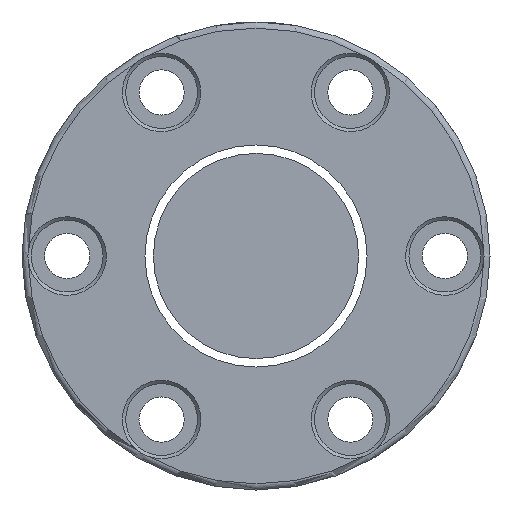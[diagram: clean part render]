
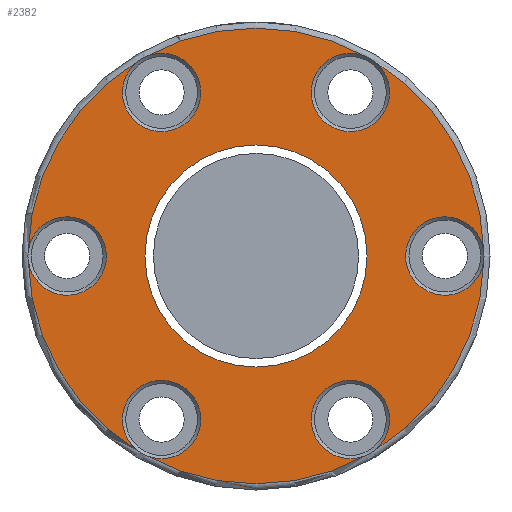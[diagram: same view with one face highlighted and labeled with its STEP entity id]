
A CAD part, left-side view. The second image highlights one B-rep face of the part: STEP entity #2382.
In plain terms, the highlighted planar face has unit normal (-1, 0, 0).
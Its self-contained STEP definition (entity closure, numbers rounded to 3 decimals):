
#1 = EDGE_CURVE ( 'NONE', #1185, #9, #2150, .T. ) ;
#9 = VERTEX_POINT ( 'NONE', #1130 ) ;
#10 = DIRECTION ( 'NONE',  ( 0., -1., 0. ) ) ;
#35 = CARTESIAN_POINT ( 'NONE',  ( -88., -23., 39.837 ) ) ;
#223 = ORIENTED_EDGE ( 'NONE', *, *, #1255, .T. ) ;
#258 = ORIENTED_EDGE ( 'NONE', *, *, #2152, .T. ) ;
#292 = CARTESIAN_POINT ( 'NONE',  ( -88., -28.673, 47.519 ) ) ;
#293 = AXIS2_PLACEMENT_3D ( 'NONE', #1666, #2627, #2371 ) ;
#429 = EDGE_CURVE ( 'NONE', #1891, #3024, #1756, .T. ) ;
#433 = DIRECTION ( 'NONE',  ( -1., 0., 0. ) ) ;
#445 = DIRECTION ( 'NONE',  ( 1., 0., 0. ) ) ;
#473 = EDGE_CURVE ( 'NONE', #9, #957, #840, .T. ) ;
#489 = DIRECTION ( 'NONE',  ( -1., 0., 0. ) ) ;
#497 = CARTESIAN_POINT ( 'NONE',  ( -88., -26.816, 48.591 ) ) ;
#507 = ORIENTED_EDGE ( 'NONE', *, *, #1486, .T. ) ;
#522 = DIRECTION ( 'NONE',  ( -1., 0., 0. ) ) ;
#621 = FACE_OUTER_BOUND ( 'NONE', #1237, .T. ) ;
#623 = ORIENTED_EDGE ( 'NONE', *, *, #899, .T. ) ;
#657 = VERTEX_POINT ( 'NONE', #292 ) ;
#675 = ORIENTED_EDGE ( 'NONE', *, *, #2864, .T. ) ;
#683 = ORIENTED_EDGE ( 'NONE', *, *, #1, .T. ) ;
#688 = AXIS2_PLACEMENT_3D ( 'NONE', #2312, #862, #3010 ) ;
#690 = CARTESIAN_POINT ( 'NONE',  ( -88., -26.816, -48.591 ) ) ;
#692 = AXIS2_PLACEMENT_3D ( 'NONE', #1726, #2701, #2240 ) ;
#716 = DIRECTION ( 'NONE',  ( 0., -1., 0. ) ) ;
#822 = CIRCLE ( 'NONE', #2481, 55.5 ) ;
#824 = ORIENTED_EDGE ( 'NONE', *, *, #473, .T. ) ;
#840 = CIRCLE ( 'NONE', #2049, 9.55 ) ;
#849 = AXIS2_PLACEMENT_3D ( 'NONE', #2739, #3071, #2565 ) ;
#859 = EDGE_CURVE ( 'NONE', #2335, #2050, #2755, .T. ) ;
#862 = DIRECTION ( 'NONE',  ( -1., 0., 0. ) ) ;
#899 = EDGE_CURVE ( 'NONE', #2262, #2065, #2206, .T. ) ;
#907 = CARTESIAN_POINT ( 'NONE',  ( -88., -55.49, -1.072 ) ) ;
#929 = CARTESIAN_POINT ( 'NONE',  ( -88., 23., -39.837 ) ) ;
#941 = DIRECTION ( 'NONE',  ( 0., -1., 0. ) ) ;
#948 = CIRCLE ( 'NONE', #2713, 9.55 ) ;
#957 = VERTEX_POINT ( 'NONE', #1694 ) ;
#971 = DIRECTION ( 'NONE',  ( 1., 0., 0. ) ) ;
#1002 = AXIS2_PLACEMENT_3D ( 'NONE', #2652, #489, #2397 ) ;
#1045 = CARTESIAN_POINT ( 'NONE',  ( -88., 28.673, -47.519 ) ) ;
#1052 = CIRCLE ( 'NONE', #2803, 55.5 ) ;
#1087 = EDGE_LOOP ( 'NONE', ( #223 ) ) ;
#1098 = DIRECTION ( 'NONE',  ( -1., 0., 0. ) ) ;
#1130 = CARTESIAN_POINT ( 'NONE',  ( -88., 26.816, 48.591 ) ) ;
#1162 = ORIENTED_EDGE ( 'NONE', *, *, #1696, .T. ) ;
#1185 = VERTEX_POINT ( 'NONE', #497 ) ;
#1232 = EDGE_CURVE ( 'NONE', #657, #1185, #948, .T. ) ;
#1237 = EDGE_LOOP ( 'NONE', ( #2126, #1285, #2589, #683, #824, #675, #623, #2563, #258, #2119, #507, #1162 ) ) ;
#1254 = AXIS2_PLACEMENT_3D ( 'NONE', #3100, #1657, #10 ) ;
#1255 = EDGE_CURVE ( 'NONE', #2006, #2006, #2405, .T. ) ;
#1285 = ORIENTED_EDGE ( 'NONE', *, *, #2109, .T. ) ;
#1294 = CARTESIAN_POINT ( 'NONE',  ( -88., 0., 0. ) ) ;
#1371 = AXIS2_PLACEMENT_3D ( 'NONE', #929, #2866, #2394 ) ;
#1453 = CIRCLE ( 'NONE', #692, 9.55 ) ;
#1486 = EDGE_CURVE ( 'NONE', #2050, #2245, #1453, .T. ) ;
#1517 = CIRCLE ( 'NONE', #849, 55.5 ) ;
#1532 = DIRECTION ( 'NONE',  ( 0., -1., 0. ) ) ;
#1559 = CARTESIAN_POINT ( 'NONE',  ( -88., 26.816, -48.591 ) ) ;
#1561 = AXIS2_PLACEMENT_3D ( 'NONE', #1811, #1098, #1587 ) ;
#1587 = DIRECTION ( 'NONE',  ( 0., -1., 0. ) ) ;
#1654 = DIRECTION ( 'NONE',  ( 0., -1., 0. ) ) ;
#1657 = DIRECTION ( 'NONE',  ( 1., 0., 0. ) ) ;
#1666 = CARTESIAN_POINT ( 'NONE',  ( -88., 0., 0. ) ) ;
#1694 = CARTESIAN_POINT ( 'NONE',  ( -88., 28.673, 47.519 ) ) ;
#1696 = EDGE_CURVE ( 'NONE', #2245, #1891, #1052, .T. ) ;
#1726 = CARTESIAN_POINT ( 'NONE',  ( -88., -23., -39.837 ) ) ;
#1756 = CIRCLE ( 'NONE', #2298, 9.55 ) ;
#1775 = VERTEX_POINT ( 'NONE', #1045 ) ;
#1811 = CARTESIAN_POINT ( 'NONE',  ( -88., 57., 0. ) ) ;
#1891 = VERTEX_POINT ( 'NONE', #907 ) ;
#1895 = DIRECTION ( 'NONE',  ( 0., -1., 0. ) ) ;
#1906 = CARTESIAN_POINT ( 'NONE',  ( -88., 0., 0. ) ) ;
#1925 = CARTESIAN_POINT ( 'NONE',  ( -88., 55.49, -1.072 ) ) ;
#1934 = DIRECTION ( 'NONE',  ( 1., 0., 0. ) ) ;
#2006 = VERTEX_POINT ( 'NONE', #2074 ) ;
#2009 = EDGE_CURVE ( 'NONE', #2065, #1775, #1517, .T. ) ;
#2049 = AXIS2_PLACEMENT_3D ( 'NONE', #2421, #971, #1895 ) ;
#2050 = VERTEX_POINT ( 'NONE', #690 ) ;
#2062 = CARTESIAN_POINT ( 'NONE',  ( -88., 0., 0. ) ) ;
#2065 = VERTEX_POINT ( 'NONE', #1925 ) ;
#2074 = CARTESIAN_POINT ( 'NONE',  ( -88., 27.05, 0. ) ) ;
#2109 = EDGE_CURVE ( 'NONE', #3024, #657, #2187, .T. ) ;
#2119 = ORIENTED_EDGE ( 'NONE', *, *, #859, .T. ) ;
#2126 = ORIENTED_EDGE ( 'NONE', *, *, #429, .T. ) ;
#2130 = CARTESIAN_POINT ( 'NONE',  ( -88., -46., 0. ) ) ;
#2150 = CIRCLE ( 'NONE', #688, 55.5 ) ;
#2152 = EDGE_CURVE ( 'NONE', #1775, #2335, #2991, .T. ) ;
#2187 = CIRCLE ( 'NONE', #2579, 55.5 ) ;
#2206 = CIRCLE ( 'NONE', #1254, 9.55 ) ;
#2240 = DIRECTION ( 'NONE',  ( 0., -1., 0. ) ) ;
#2245 = VERTEX_POINT ( 'NONE', #2544 ) ;
#2256 = DIRECTION ( 'NONE',  ( 0., -1., 0. ) ) ;
#2262 = VERTEX_POINT ( 'NONE', #3021 ) ;
#2296 = FACE_BOUND ( 'NONE', #1087, .T. ) ;
#2298 = AXIS2_PLACEMENT_3D ( 'NONE', #2130, #1934, #716 ) ;
#2312 = CARTESIAN_POINT ( 'NONE',  ( -88., 0., 0. ) ) ;
#2335 = VERTEX_POINT ( 'NONE', #1559 ) ;
#2371 = DIRECTION ( 'NONE',  ( 0., 1., 0. ) ) ;
#2382 = ADVANCED_FACE ( 'NONE', ( #621, #2296 ), #3035, .T. ) ;
#2394 = DIRECTION ( 'NONE',  ( 0., -1., 0. ) ) ;
#2397 = DIRECTION ( 'NONE',  ( 0., -1., 0. ) ) ;
#2405 = CIRCLE ( 'NONE', #293, 27.05 ) ;
#2421 = CARTESIAN_POINT ( 'NONE',  ( -88., 23., 39.837 ) ) ;
#2481 = AXIS2_PLACEMENT_3D ( 'NONE', #2062, #2732, #1532 ) ;
#2544 = CARTESIAN_POINT ( 'NONE',  ( -88., -28.673, -47.519 ) ) ;
#2563 = ORIENTED_EDGE ( 'NONE', *, *, #2009, .T. ) ;
#2565 = DIRECTION ( 'NONE',  ( 0., -1., 0. ) ) ;
#2579 = AXIS2_PLACEMENT_3D ( 'NONE', #1906, #433, #1654 ) ;
#2589 = ORIENTED_EDGE ( 'NONE', *, *, #1232, .T. ) ;
#2627 = DIRECTION ( 'NONE',  ( 1., 0., 0. ) ) ;
#2652 = CARTESIAN_POINT ( 'NONE',  ( -88., 0., 0. ) ) ;
#2701 = DIRECTION ( 'NONE',  ( 1., 0., 0. ) ) ;
#2713 = AXIS2_PLACEMENT_3D ( 'NONE', #35, #445, #941 ) ;
#2715 = CARTESIAN_POINT ( 'NONE',  ( -88., -55.49, 1.072 ) ) ;
#2732 = DIRECTION ( 'NONE',  ( -1., 0., 0. ) ) ;
#2739 = CARTESIAN_POINT ( 'NONE',  ( -88., 0., 0. ) ) ;
#2755 = CIRCLE ( 'NONE', #1002, 55.5 ) ;
#2803 = AXIS2_PLACEMENT_3D ( 'NONE', #1294, #522, #2256 ) ;
#2864 = EDGE_CURVE ( 'NONE', #957, #2262, #822, .T. ) ;
#2866 = DIRECTION ( 'NONE',  ( 1., 0., 0. ) ) ;
#2991 = CIRCLE ( 'NONE', #1371, 9.55 ) ;
#3010 = DIRECTION ( 'NONE',  ( 0., -1., 0. ) ) ;
#3021 = CARTESIAN_POINT ( 'NONE',  ( -88., 55.49, 1.072 ) ) ;
#3024 = VERTEX_POINT ( 'NONE', #2715 ) ;
#3035 = PLANE ( 'NONE',  #1561 ) ;
#3071 = DIRECTION ( 'NONE',  ( -1., 0., 0. ) ) ;
#3100 = CARTESIAN_POINT ( 'NONE',  ( -88., 46., 0. ) ) ;
